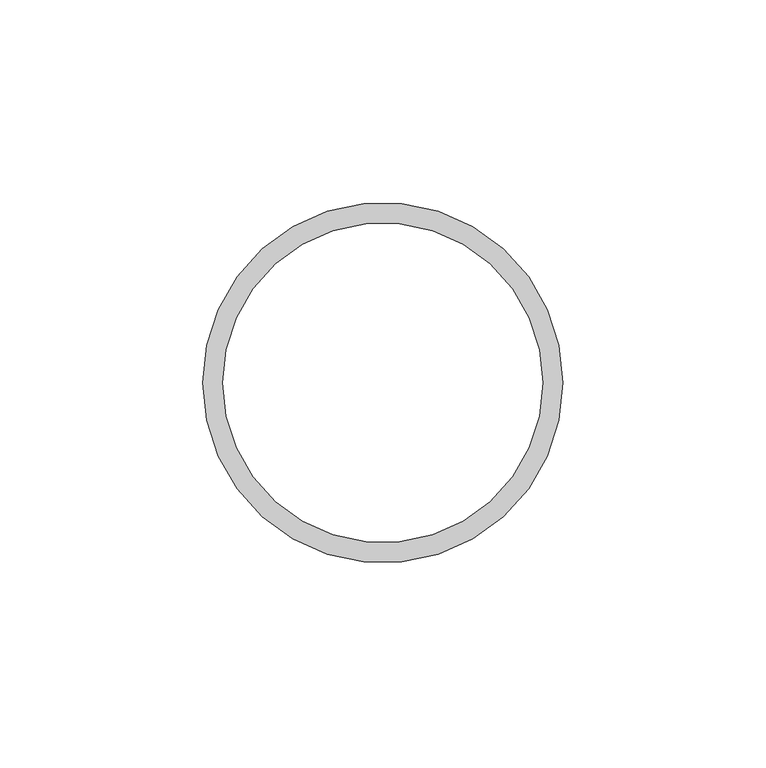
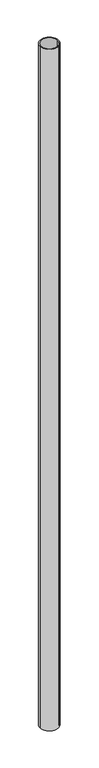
"""IFC4 building model written with IfcOpenShell, lengths in millimetres: column geometry, NLRS_28_SC_TLB_kolom buis_generiek_ISR : ø88.9x5 ."""

from ifc_helpers import new_model, si_unit, point, frame, origin, origin_2d, place, context, project, spatial, circle_curve, trimmed, segment, composite_curve, outline, extrude, source, transform, mapped, element, save


def column_ade1be1b(model_context):
    return source(origin(), model_context, "Body", "SweptSolid", [
        extrude(outline(composite_curve([segment(trimmed(circle_curve(origin_2d(), 44.45), [point((44.45, 0.0))], [point((-44.45, 0.0))], False, "CARTESIAN"), True, "CONTINUOUS"), segment(trimmed(circle_curve(origin_2d(), 44.45), [point((-44.45, 0.0))], [point((44.45, 0.0))], False, "CARTESIAN"), True, "CONTINUOUS")], self_intersect=False), holes=[composite_curve([segment(trimmed(circle_curve(origin_2d(), 39.45), [point((39.45, 0.0))], [point((-39.45, 0.0))], True, "CARTESIAN"), True, "CONTINUOUS"), segment(trimmed(circle_curve(origin_2d(), 39.45), [point((-39.45, 0.0))], [point((39.45, 0.0))], True, "CARTESIAN"), True, "CONTINUOUS")], self_intersect=False)]), frame((0.0, 0.0, 3500.0), z_axis=(0.0, 0.0, 1.0), x_axis=(1.0, 0.0, 0.0)), (0.0, 0.0, 1.0), 3450.0),
    ])


if __name__ == "__main__":
    model = new_model("IFC4")
    model_context = context("Model", 3, world=origin())
    ifc_project = project(units=[si_unit("LENGTHUNIT", "METRE", prefix="MILLI")], contexts=[model_context])
    site = spatial("IfcSite", under=ifc_project)
    building = spatial("IfcBuilding", under=site)
    placement = place(None, origin())
    column_shape = column_ade1be1b(model_context)
    element("IfcColumn", 1, ObjectType="NLRS_28_SC_TLB_kolom buis_generiek_ISR : ø88.9x5 ", at=placement, inside=building, context=model_context, shape_type="MappedRepresentation", body=[
        mapped(column_shape, transform((0.0, 0.0, 0.0), x_axis=(1.0, 0.0, 0.0), y_axis=(0.0, 1.0, 0.0), z_axis=(0.0, 0.0, 1.0))),
    ])
    save(model, "model.ifc")
